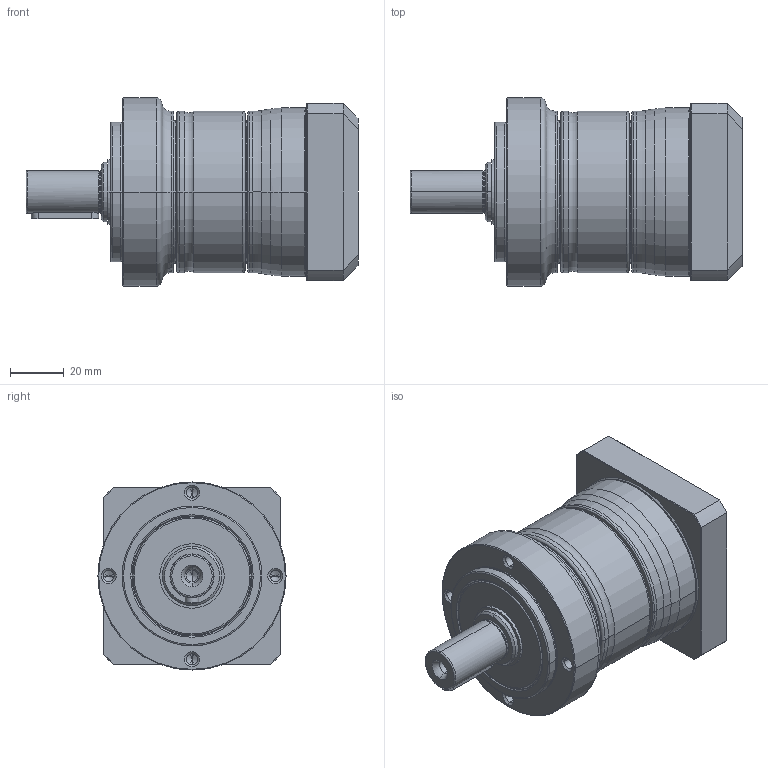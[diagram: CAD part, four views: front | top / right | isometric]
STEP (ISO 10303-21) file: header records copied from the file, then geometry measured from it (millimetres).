
FILE_DESCRIPTION((''),'2;1');
FILE_NAME('PE2-070_1ST_14-P0411300101_ASM','2017-05-26T',('d01943'),(''),'PRO/ENGINEER BY PARAMETRIC TECHNOLOGY CORPORATION, 2008410','PRO/ENGINEER BY PARAMETRIC TECHNOLOGY CORPORATION, 2008410','');
FILE_SCHEMA(('CONFIG_CONTROL_DESIGN'));
Length unit declared in the file: millimetre
Products named in the file (9): P1323210001; P0250200001; P1324200201; P0350201001; P0941202001; P0503300005; P0411300101; P1702300001; PE2-070_1ST_14-P0411300101_ASM
Assembly tree (8 placements, depth 2):
  PE2-070_1ST_14-P0411300101_ASM
    P1323210001
    P0250200001
    P1324200201
    P0350201001
    P0941202001
    P0503300005
    P0411300101
    P1702300001
Bounding box: 123.5 x 70 x 70 mm (x, y, z)
Volume: 233668.4 mm3; surface area: 72705.8 mm2
Topology: 8 solids, 8 shells, 462 faces, 1018 edges, 584 vertices
Faces by surface type: cone 136, cylinder 136, torus 96, plane 76, bspline 18
Entity records: 17200 total; most frequent: CARTESIAN_POINT 6826, DIRECTION 2357, ORIENTED_EDGE 1972, AXIS2_PLACEMENT_3D 1013, EDGE_CURVE 986, VERTEX_POINT 584, CIRCLE 552, EDGE_LOOP 522
